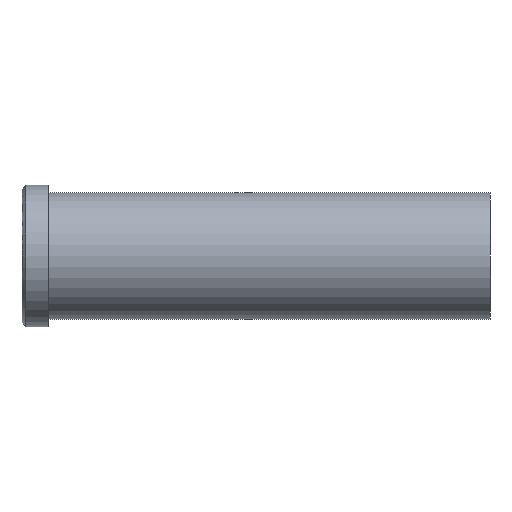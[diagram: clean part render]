
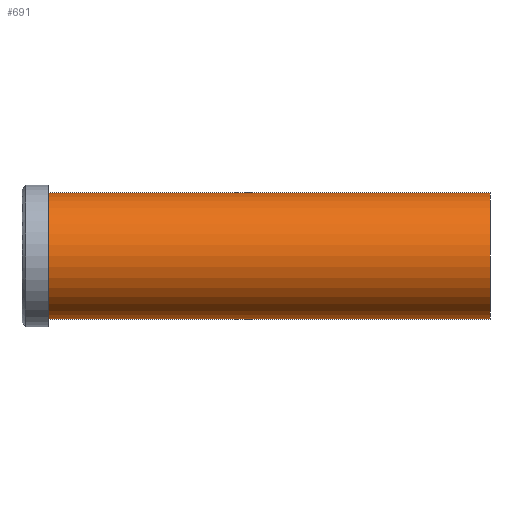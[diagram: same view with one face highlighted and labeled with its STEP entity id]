
A CAD part, front view. The second image highlights one B-rep face of the part: STEP entity #691.
In plain terms, the highlighted cylindrical face has radius 17 mm (diameter 34 mm), a partial arc.
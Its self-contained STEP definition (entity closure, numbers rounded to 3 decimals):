
#501=CARTESIAN_POINT('Vertex',(0.,0.,-17.)) ;
#506=CARTESIAN_POINT('Axis2P3D Location',(0.,0.,0.)) ;
#510=CARTESIAN_POINT('Vertex',(0.,-17.,0.)) ;
#513=CARTESIAN_POINT('Axis2P3D Location',(0.,0.,0.)) ;
#517=CARTESIAN_POINT('Vertex',(0.,0.,17.)) ;
#631=CARTESIAN_POINT('Line Origine',(119.,0.,17.)) ;
#635=CARTESIAN_POINT('Vertex',(119.,0.,17.)) ;
#649=CARTESIAN_POINT('Vertex',(119.,0.,-17.)) ;
#652=CARTESIAN_POINT('Line Origine',(119.,0.,-17.)) ;
#666=CARTESIAN_POINT('Axis2P3D Location',(119.,0.,0.)) ;
#671=CARTESIAN_POINT('Axis2P3D Location',(119.,0.,0.)) ;
#675=CARTESIAN_POINT('Vertex',(119.,-17.,0.)) ;
#678=CARTESIAN_POINT('Axis2P3D Location',(119.,0.,0.)) ;
#507=DIRECTION('Axis2P3D Direction',(1.,0.,-0.)) ;
#514=DIRECTION('Axis2P3D Direction',(1.,0.,-0.)) ;
#632=DIRECTION('Vector Direction',(-1.,0.,0.)) ;
#653=DIRECTION('Vector Direction',(-1.,0.,0.)) ;
#667=DIRECTION('Axis2P3D Direction',(-1.,-0.,-0.)) ;
#668=DIRECTION('Axis2P3D XDirection',(0.,0.,-1.)) ;
#672=DIRECTION('Axis2P3D Direction',(-1.,-0.,-0.)) ;
#679=DIRECTION('Axis2P3D Direction',(-1.,-0.,-0.)) ;
#508=AXIS2_PLACEMENT_3D('Circle Axis2P3D',#506,#507,$) ;
#515=AXIS2_PLACEMENT_3D('Circle Axis2P3D',#513,#514,$) ;
#669=AXIS2_PLACEMENT_3D('Cylinder Axis2P3D',#666,#667,#668) ;
#673=AXIS2_PLACEMENT_3D('Circle Axis2P3D',#671,#672,$) ;
#680=AXIS2_PLACEMENT_3D('Circle Axis2P3D',#678,#679,$) ;
#684=ORIENTED_EDGE('',*,*,#656,.T.) ;
#685=ORIENTED_EDGE('',*,*,#677,.F.) ;
#686=ORIENTED_EDGE('',*,*,#682,.F.) ;
#687=ORIENTED_EDGE('',*,*,#637,.T.) ;
#688=ORIENTED_EDGE('',*,*,#519,.T.) ;
#689=ORIENTED_EDGE('',*,*,#512,.T.) ;
#633=VECTOR('Line Direction',#632,1.) ;
#654=VECTOR('Line Direction',#653,1.) ;
#691=ADVANCED_FACE('353-25X126',(#690),#670,.T.) ;
#509=CIRCLE('generated circle',#508,17.) ;
#516=CIRCLE('generated circle',#515,17.) ;
#674=CIRCLE('generated circle',#673,17.) ;
#681=CIRCLE('generated circle',#680,17.) ;
#670=CYLINDRICAL_SURFACE('generated cylinder',#669,17.) ;
#512=EDGE_CURVE('',#511,#502,#509,.T.) ;
#519=EDGE_CURVE('',#518,#511,#516,.T.) ;
#637=EDGE_CURVE('',#636,#518,#634,.T.) ;
#656=EDGE_CURVE('',#502,#650,#655,.F.) ;
#677=EDGE_CURVE('',#676,#650,#674,.F.) ;
#682=EDGE_CURVE('',#636,#676,#681,.F.) ;
#683=EDGE_LOOP('',(#684,#685,#686,#687,#688,#689)) ;
#690=FACE_OUTER_BOUND('',#683,.T.) ;
#634=LINE('Line',#631,#633) ;
#655=LINE('Line',#652,#654) ;
#502=VERTEX_POINT('',#501) ;
#511=VERTEX_POINT('',#510) ;
#518=VERTEX_POINT('',#517) ;
#636=VERTEX_POINT('',#635) ;
#650=VERTEX_POINT('',#649) ;
#676=VERTEX_POINT('',#675) ;
